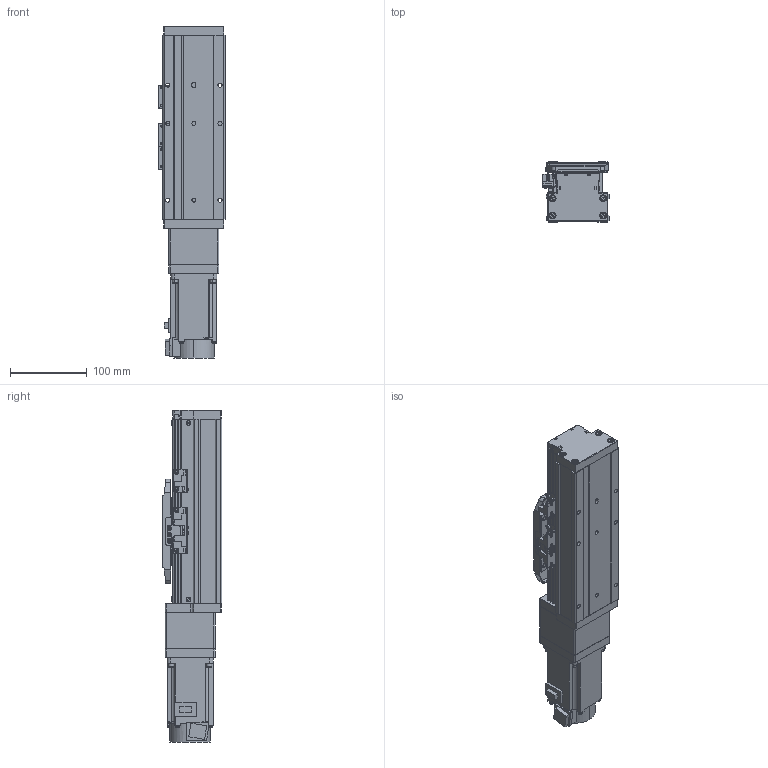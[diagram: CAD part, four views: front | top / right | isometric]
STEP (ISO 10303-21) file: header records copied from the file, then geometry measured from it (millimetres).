
FILE_DESCRIPTION (( 'STEP AP203' ), '1' );
FILE_NAME ('GTH8-50-BC-M20-C4.step', '2022-09-23T00:55:05', ( '微软用户' ), ( '微软中国' ), 'SwSTEP 2.0', 'SolidWorks 2020', '' );
FILE_SCHEMA (( 'CONFIG_CONTROL_DESIGN' ));
Length unit declared in the file: millimetre
Products named in the file (19): GTH50-024; hg-kn43j_-s100_; GTH80-001_50; GTH80-013; GTH50-023; GTH8-50-BC-M20-C4; GTH80-003; GBT 70.3-M3℅6; GBT96.1-2002 3×0.8; GTH80-004; GTH80-022; BTH-M3X5X6; GTH80-006; GBT 70.1-M3℅6; CTHA86-006-1_CTHA86-006-2; GBT 70.1-M4×16; CTHA86-013; GTH80-028; CTHA86-027
Assembly tree (60 placements, depth 2):
  GTH8-50-BC-M20-C4
    GTH80-001_50
    GTH80-003
    GTH80-004
    GTH80-006
    GTH80-013
    GBT 70.3-M3℅6  x6
    GTH80-022
    GBT 70.1-M3℅6  x14
    GBT 70.1-M4×16  x8
    GTH80-028  x2
    GTH50-024  x3
    GTH50-023  x3
    GBT96.1-2002 3×0.8  x6
    BTH-M3X5X6  x8
    CTHA86-006-1_CTHA86-006-2
    CTHA86-013
    CTHA86-027
    hg-kn43j_-s100_
Bounding box: 86.9 x 78 x 432.7 mm (x, y, z)
Volume: 1850986.6 mm3; surface area: 263968.8 mm2
Topology: 62 solids, 62 shells, 2211 faces, 5068 edges, 3083 vertices
Faces by surface type: plane 1173, cylinder 581, cone 285, torus 162, sphere 8, bspline 2
Entity records: 38076 total; most frequent: CARTESIAN_POINT 6287, DIRECTION 6226, ORIENTED_EDGE 5726, EDGE_CURVE 2863, AXIS2_PLACEMENT_3D 2164, LINE 1898, VECTOR 1898, VERTEX_POINT 1796
